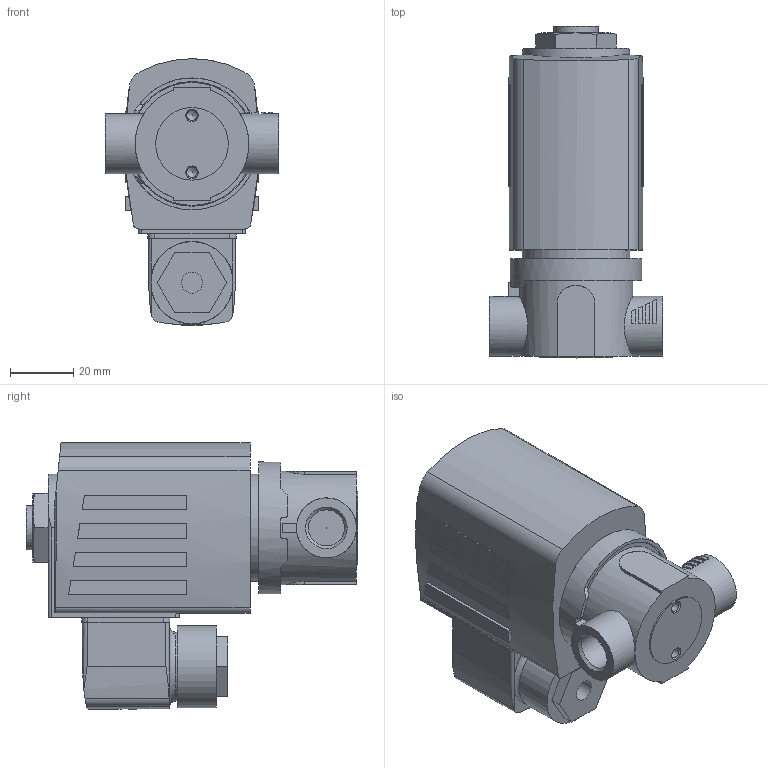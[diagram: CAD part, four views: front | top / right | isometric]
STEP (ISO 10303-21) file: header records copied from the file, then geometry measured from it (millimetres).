
FILE_DESCRIPTION(/* description */ ('STEP AP214'),/* implementation_level */ '2;1');
FILE_NAME(/* name */ '6027-A-2-PTFE___FKM-VA-G_1_4-42-196___DC',/* time_stamp */ '2024-03-19T06:52:43+01:00',/* author */ ('License CC BY-ND 4.0'),/* organization */ ('CADENAS'),/* preprocessor_version */ 'ST-DEVELOPER v19.3',/* originating_system */ 'PARTsolutions',/* authorisation */ ' ');
FILE_SCHEMA (('AUTOMOTIVE_DESIGN {1 0 10303 214 3 1 1}'));
Length unit declared in the file: millimetre
Products named in the file (3): 6027-A-2-PTFE / FKM-VA-G 1/4-42-196 / DC; AC10ex-42SG=kGSD_MB02Plan-Coil; V027-Gehaeuse G 1/4 1 1 VA G55 4 1
Assembly tree (2 placements, depth 2):
  6027-A-2-PTFE / FKM-VA-G 1/4-42-196 / DC
    AC10ex-42SG=kGSD_MB02Plan-Coil
    V027-Gehaeuse G 1/4 1 1 VA G55 4 1
Bounding box: 55 x 105.2 x 84.5 mm (x, y, z)
Volume: 207456.2 mm3; surface area: 31594.7 mm2
Topology: 2 solids, 3 shells, 215 faces, 527 edges, 344 vertices
Faces by surface type: plane 141, cylinder 58, cone 13, sphere 2, torus 1
Full cylindrical faces by diameter (mm): 0.2 x1, 2.013 x1, 3.242 x2, 6 x1, 6.7 x1, 7 x1, 11.445 x2, 14 x1, 19 x2, 22 x1, 23 x1, 26 x1, 34 x1, 36 x1, 39 x1, 39.5 x1, 41.8 x1
Entity records: 7244 total; most frequent: CARTESIAN_POINT 1230, DIRECTION 1050, ORIENTED_EDGE 972, EDGE_CURVE 486, AXIS2_PLACEMENT_3D 391, VERTEX_POINT 333, FACE_BOUND 273, EDGE_LOOP 271
